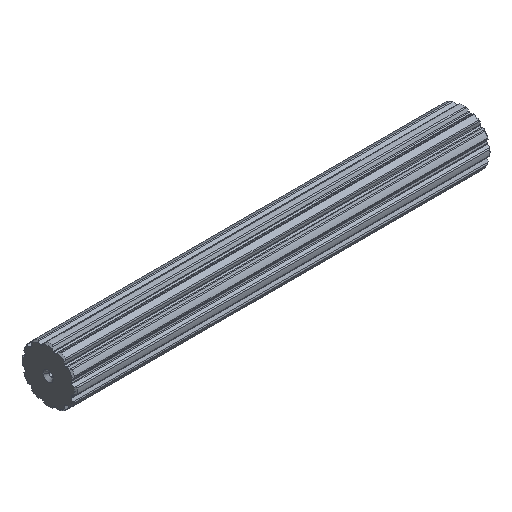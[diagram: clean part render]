
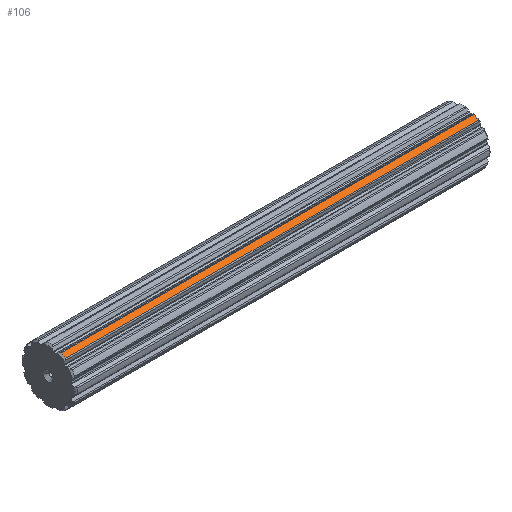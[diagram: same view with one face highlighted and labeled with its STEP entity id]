
A CAD part, isometric view. The second image highlights one B-rep face of the part: STEP entity #106.
In plain terms, the highlighted cylindrical face has radius 9.3 mm (diameter 18.6 mm), a partial arc.
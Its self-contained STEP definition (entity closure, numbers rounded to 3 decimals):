
#106=ADVANCED_FACE('',(#276),#277,.T.);
#276=FACE_OUTER_BOUND('',#554,.T.);
#277=CYLINDRICAL_SURFACE('',#555,9.3);
#554=EDGE_LOOP('',(#1011,#1012,#1013,#1014));
#555=AXIS2_PLACEMENT_3D('',#1015,#1016,#1017);
#1011=ORIENTED_EDGE('',*,*,#2081,.T.);
#1012=ORIENTED_EDGE('',*,*,#2097,.T.);
#1013=ORIENTED_EDGE('',*,*,#2098,.T.);
#1014=ORIENTED_EDGE('',*,*,#2099,.T.);
#1015=CARTESIAN_POINT('',(70.0,0.0,0.0));
#1016=DIRECTION('',(1.0,0.0,-0.0));
#1017=DIRECTION('',(0.0,0.866,0.5));
#2081=EDGE_CURVE('',#2560,#2569,#2571,.T.);
#2097=EDGE_CURVE('',#2569,#2599,#2600,.T.);
#2098=EDGE_CURVE('',#2599,#2601,#2602,.T.);
#2099=EDGE_CURVE('',#2601,#2560,#2603,.T.);
#2560=VERTEX_POINT('',#3586);
#2569=VERTEX_POINT('',#3620);
#2571=CIRCLE('',#3629,9.3);
#2599=VERTEX_POINT('',#3711);
#2600=LINE('',#3712,#3713);
#2601=VERTEX_POINT('',#3714);
#2602=CIRCLE('',#3715,9.3);
#2603=LINE('',#3716,#3717);
#3586=CARTESIAN_POINT('',(0.5,-3.857,8.462));
#3620=CARTESIAN_POINT('',(0.5,-5.4,7.572));
#3629=AXIS2_PLACEMENT_3D('',#4755,#4756,#4757);
#3711=CARTESIAN_POINT('',(139.5,-5.4,7.572));
#3712=CARTESIAN_POINT('',(70.0,-5.4,7.572));
#3713=VECTOR('',#4773,1.0);
#3714=CARTESIAN_POINT('',(139.5,-3.857,8.462));
#3715=AXIS2_PLACEMENT_3D('',#4774,#4775,#4776);
#3716=CARTESIAN_POINT('',(70.0,-3.857,8.462));
#3717=VECTOR('',#4777,1.0);
#4755=CARTESIAN_POINT('',(0.5,0.0,0.0));
#4756=DIRECTION('',(1.0,0.0,0.));
#4757=DIRECTION('',(0.,0.866,0.5));
#4773=DIRECTION('',(1.0,0.0,0.0));
#4774=CARTESIAN_POINT('',(139.5,0.0,0.0));
#4775=DIRECTION('',(-1.0,0.0,0.0));
#4776=DIRECTION('',(0.0,0.866,0.5));
#4777=DIRECTION('',(-1.0,0.0,0.0));
